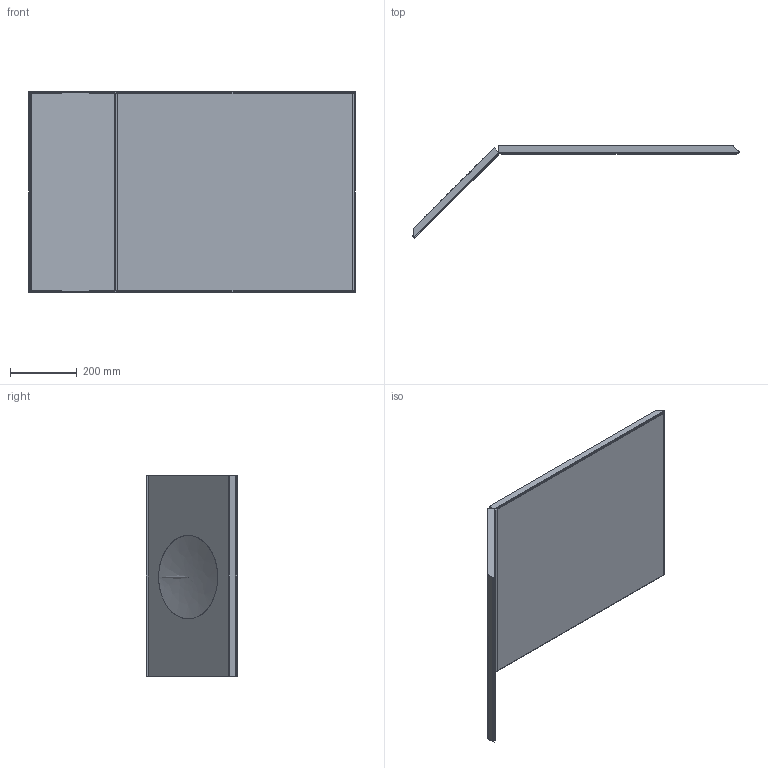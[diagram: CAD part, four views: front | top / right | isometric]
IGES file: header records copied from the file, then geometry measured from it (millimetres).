
Start section: Data from Parasolid IGES Translator 19.0.9, Copyright(c) 2006 Siemens PL M Software. All Rights Reserved.
Global section: file name: noorth-mirror-H 60 D 2,5 W 108_4236.igs; native system: By Siemens PLM Incorporated; preprocessor: XPlus GENERIC/IGES 19.0.9; author: Noname; organization: Noname; date: 20210721.091747; units: metre
Bounding box: 977.36 x 274.85 x 600 mm (x, y, z)
Volume: 14295479.3 mm3; surface area: 2824478.8 mm2
Topology: 7 solids, 7 shells, 101 faces, 215 edges, 127 vertices
Faces by surface type: plane 83, cylinder 15, bspline 3
Full cylindrical faces by diameter (mm): 250 x1
